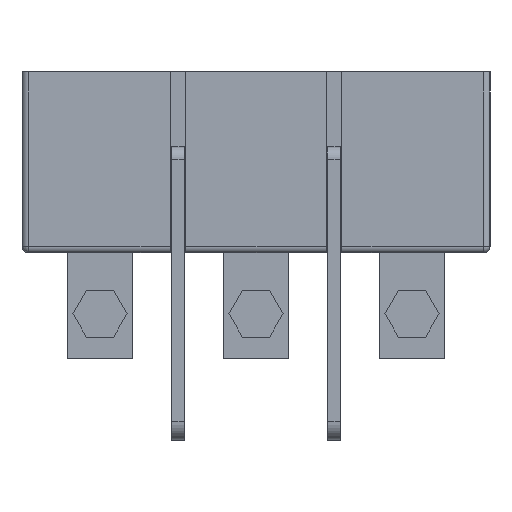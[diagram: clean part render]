
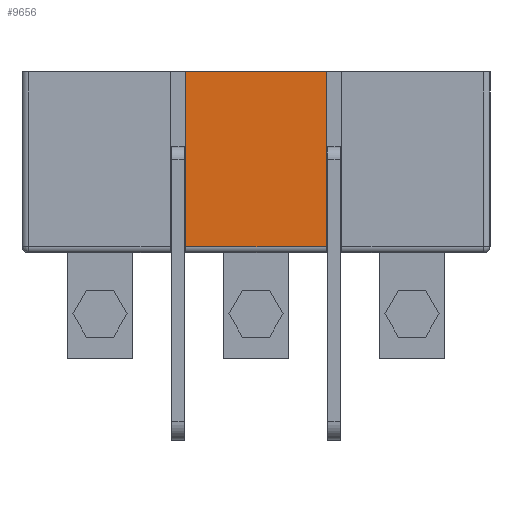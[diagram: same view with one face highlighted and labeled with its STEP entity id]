
A CAD part, front view. The second image highlights one B-rep face of the part: STEP entity #9656.
In plain terms, the highlighted planar face has unit normal (0, -1, 0) as drawn and (1, 0, 0) by its records, which use the part's own axes.
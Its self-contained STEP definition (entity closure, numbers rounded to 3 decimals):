
#199 = PLANE ( 'NONE',  #15433 ) ;
#877 = CARTESIAN_POINT ( 'NONE',  ( 66.5, -11.25, -33. ) ) ;
#2264 = CARTESIAN_POINT ( 'NONE',  ( 66.5, -11.25, -28. ) ) ;
#2434 = VECTOR ( 'NONE', #18822, 1000. ) ;
#4438 = DIRECTION ( 'NONE',  ( 0., 1., 0. ) ) ;
#5046 = VECTOR ( 'NONE', #6773, 1000. ) ;
#6773 = DIRECTION ( 'NONE',  ( 0., 1., 0. ) ) ;
#8191 = VECTOR ( 'NONE', #8965, 1000. ) ;
#8279 = FACE_OUTER_BOUND ( 'NONE', #19508, .T. ) ;
#8455 = VERTEX_POINT ( 'NONE', #2264 ) ;
#8472 = EDGE_CURVE ( 'NONE', #8455, #15074, #18649, .T. ) ;
#8965 = DIRECTION ( 'NONE',  ( 0., 0., -1. ) ) ;
#9656 = ADVANCED_FACE ( 'NONE', ( #8279 ), #199, .T. ) ;
#9871 = DIRECTION ( 'NONE',  ( 1., 0., 0. ) ) ;
#11389 = VERTEX_POINT ( 'NONE', #14716 ) ;
#12272 = CARTESIAN_POINT ( 'NONE',  ( 66.5, 11.25, -28. ) ) ;
#12992 = CARTESIAN_POINT ( 'NONE',  ( 66.5, -37.5, -28. ) ) ;
#13945 = ORIENTED_EDGE ( 'NONE', *, *, #15182, .F. ) ;
#13961 = DIRECTION ( 'NONE',  ( 0., 1., 0. ) ) ;
#14303 = ORIENTED_EDGE ( 'NONE', *, *, #22738, .F. ) ;
#14613 = CARTESIAN_POINT ( 'NONE',  ( 66.5, 11.25, -33. ) ) ;
#14716 = CARTESIAN_POINT ( 'NONE',  ( 66.5, -11.25, 0. ) ) ;
#15074 = VERTEX_POINT ( 'NONE', #12272 ) ;
#15182 = EDGE_CURVE ( 'NONE', #23072, #15074, #18690, .T. ) ;
#15433 = AXIS2_PLACEMENT_3D ( 'NONE', #15795, #9871, #13961 ) ;
#15795 = CARTESIAN_POINT ( 'NONE',  ( 66.5, -37.5, -29. ) ) ;
#16456 = LINE ( 'NONE', #18287, #19616 ) ;
#17184 = CARTESIAN_POINT ( 'NONE',  ( 66.5, 11.25, 0. ) ) ;
#18287 = CARTESIAN_POINT ( 'NONE',  ( 66.5, -37.5, 0. ) ) ;
#18649 = LINE ( 'NONE', #12992, #5046 ) ;
#18690 = LINE ( 'NONE', #14613, #2434 ) ;
#18822 = DIRECTION ( 'NONE',  ( 0., 0., -1. ) ) ;
#19508 = EDGE_LOOP ( 'NONE', ( #22583, #24736, #13945, #14303 ) ) ;
#19616 = VECTOR ( 'NONE', #4438, 1000. ) ;
#22424 = EDGE_CURVE ( 'NONE', #11389, #8455, #23213, .T. ) ;
#22583 = ORIENTED_EDGE ( 'NONE', *, *, #22424, .T. ) ;
#22738 = EDGE_CURVE ( 'NONE', #11389, #23072, #16456, .T. ) ;
#23072 = VERTEX_POINT ( 'NONE', #17184 ) ;
#23213 = LINE ( 'NONE', #877, #8191 ) ;
#24736 = ORIENTED_EDGE ( 'NONE', *, *, #8472, .T. ) ;
